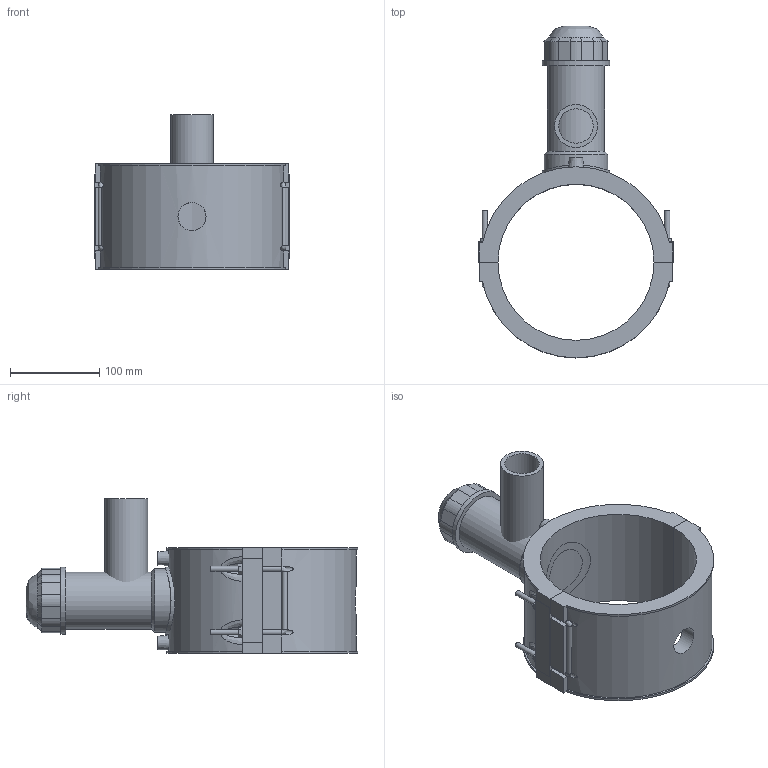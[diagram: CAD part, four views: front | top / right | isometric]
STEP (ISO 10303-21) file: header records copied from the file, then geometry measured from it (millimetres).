
FILE_DESCRIPTION(/* description */ ('PLASSON TAPPING SADDLE 6''''DIPS x 1 1/2''''IPS'),/* implementation_level */ '2;1');
FILE_NAME(/* name */ 'C:\Dropbox\KIMPROJECTS-Inventor 2019\99-16-3568-Processing Inch\ASTM ElectroFusion 2021\5963DBP_5963BUP\5963DBP3060015.ipt.stp',/* time_stamp */ '2021-08-30T09:58:35+03:00',/* author */ ('KIM'),/* organization */ (''),/* preprocessor_version */ 'ST-DEVELOPER v17.2',/* originating_system */ 'Autodesk Inventor 2019',/* authorisation */ '');
FILE_SCHEMA (('AUTOMOTIVE_DESIGN { 1 0 10303 214 3 1 1 }'));
Length unit declared in the file: inch
Products named in the file (1): 5963DBP3060015
Bounding box: 217.9 x 371.08 x 173.1 mm (x, y, z)
Volume: 1699287.7 mm3; surface area: 290867.3 mm2
Topology: 3 solids, 3 shells, 200 faces, 521 edges, 340 vertices
Faces by surface type: plane 125, cylinder 51, cone 15, bspline 9
Full cylindrical faces by diameter (mm): 4 x2, 6 x8, 10 x2, 31.36 x1, 38.48 x1, 48.1 x1, 52.524 x1, 63.78 x1, 71.283 x1, 75.035 x2
Entity records: 7416 total; most frequent: CARTESIAN_POINT 2469, ORIENTED_EDGE 1042, DIRECTION 976, EDGE_CURVE 521, VERTEX_POINT 340, AXIS2_PLACEMENT_3D 330, LINE 316, VECTOR 316
